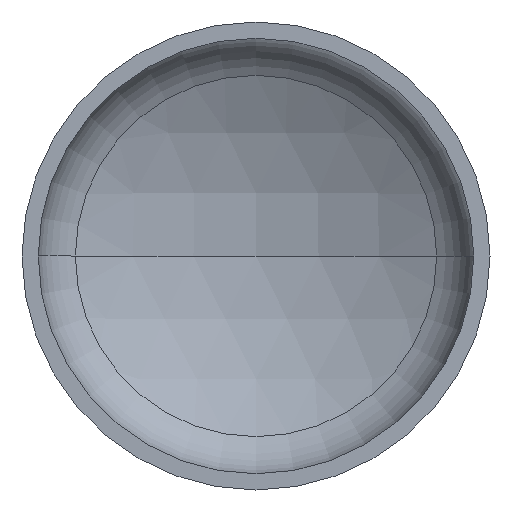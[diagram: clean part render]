
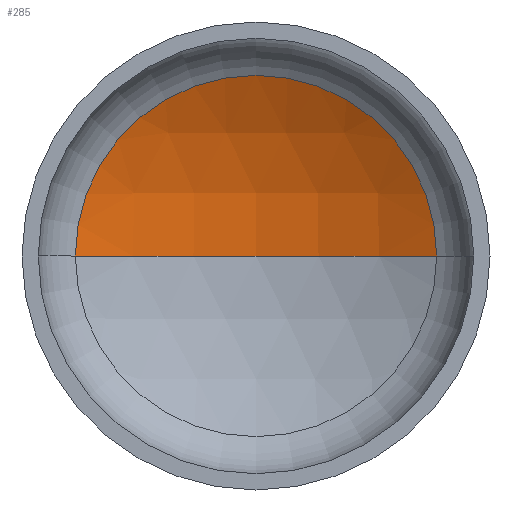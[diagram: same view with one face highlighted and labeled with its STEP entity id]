
A CAD part, front view. The second image highlights one B-rep face of the part: STEP entity #285.
In plain terms, the highlighted spherical face has radius 1200 mm.
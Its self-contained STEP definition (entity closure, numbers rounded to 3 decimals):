
#9 = CARTESIAN_POINT ( 'NONE',  ( 0., 470.367, 0. ) ) ;
#16 = AXIS2_PLACEMENT_3D ( 'NONE', #200, #117, #323 ) ;
#19 = AXIS2_PLACEMENT_3D ( 'NONE', #391, #390, #142 ) ;
#22 = AXIS2_PLACEMENT_3D ( 'NONE', #263, #188, #228 ) ;
#73 = CIRCLE ( 'NONE', #324, 1200. ) ;
#97 = CIRCLE ( 'NONE', #16, 1200. ) ;
#107 = CIRCLE ( 'NONE', #19, 578.969 ) ;
#114 = EDGE_LOOP ( 'NONE', ( #141, #265, #134 ) ) ;
#117 = DIRECTION ( 'NONE',  ( 0., 0., -1. ) ) ;
#134 = ORIENTED_EDGE ( 'NONE', *, *, #316, .T. ) ;
#141 = ORIENTED_EDGE ( 'NONE', *, *, #380, .F. ) ;
#142 = DIRECTION ( 'NONE',  ( 1., 0., 0. ) ) ;
#161 = DIRECTION ( 'NONE',  ( 0., 0., 1. ) ) ;
#166 = VERTEX_POINT ( 'NONE', #325 ) ;
#174 = VERTEX_POINT ( 'NONE', #356 ) ;
#188 = DIRECTION ( 'NONE',  ( 0., 0., -1. ) ) ;
#195 = VERTEX_POINT ( 'NONE', #9 ) ;
#200 = CARTESIAN_POINT ( 'NONE',  ( 0., -729.633, 0. ) ) ;
#221 = FACE_OUTER_BOUND ( 'NONE', #114, .T. ) ;
#228 = DIRECTION ( 'NONE',  ( -1., 0., 0. ) ) ;
#263 = CARTESIAN_POINT ( 'NONE',  ( 0., -729.633, 0. ) ) ;
#265 = ORIENTED_EDGE ( 'NONE', *, *, #340, .T. ) ;
#285 = ADVANCED_FACE ( 'NONE', ( #221 ), #346, .F. ) ;
#316 = EDGE_CURVE ( 'NONE', #166, #174, #107, .T. ) ;
#323 = DIRECTION ( 'NONE',  ( -1., 0., 0. ) ) ;
#324 = AXIS2_PLACEMENT_3D ( 'NONE', #328, #161, #358 ) ;
#325 = CARTESIAN_POINT ( 'NONE',  ( 578.969, 321.459, 0. ) ) ;
#328 = CARTESIAN_POINT ( 'NONE',  ( 0., -729.633, 0. ) ) ;
#340 = EDGE_CURVE ( 'NONE', #195, #166, #97, .T. ) ;
#346 = SPHERICAL_SURFACE ( 'NONE', #22, 1200. ) ;
#356 = CARTESIAN_POINT ( 'NONE',  ( -578.969, 321.459, 0. ) ) ;
#358 = DIRECTION ( 'NONE',  ( 1., 0., 0. ) ) ;
#380 = EDGE_CURVE ( 'NONE', #195, #174, #73, .T. ) ;
#390 = DIRECTION ( 'NONE',  ( 0., -1., 0. ) ) ;
#391 = CARTESIAN_POINT ( 'NONE',  ( 0., 321.459, 0. ) ) ;
